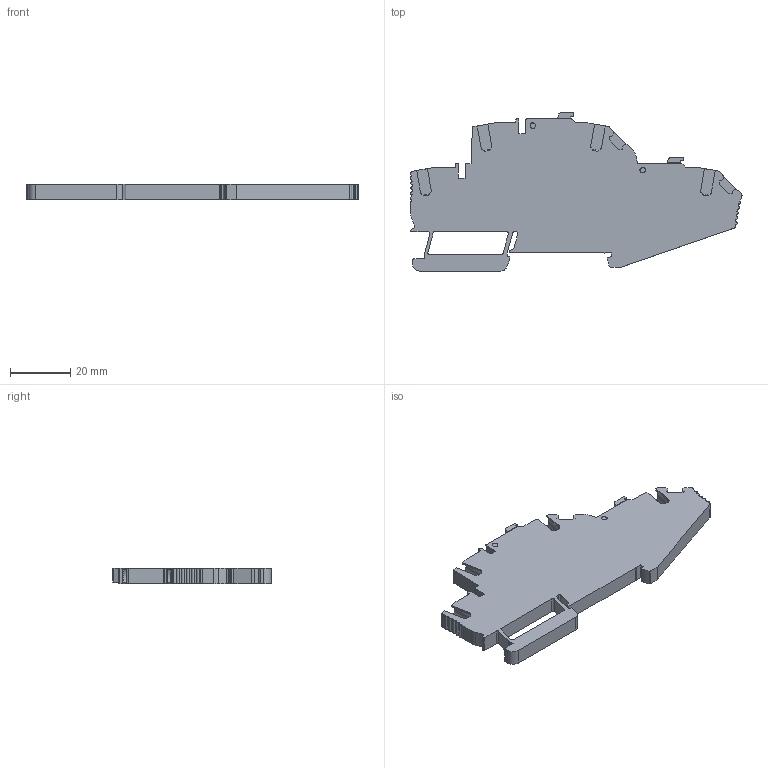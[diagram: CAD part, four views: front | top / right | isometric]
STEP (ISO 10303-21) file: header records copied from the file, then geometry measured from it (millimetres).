
FILE_DESCRIPTION(('Creo Elements/Direct Modeling STEP Export'),'2;1');
FILE_NAME('EFDS.2.stp','2019-01-09T13:25:53',(''),(''),'Creo Elements/Direct Modeling STEP processor for AP214 (Solid Model)','Creo Elements/Direct Modeling 20.1 10-Mar-2018 (C) Parametric Technology GmbH','');
FILE_SCHEMA(('AUTOMOTIVE_DESIGN { 1 0 10303 214 1 1 1 1 }'));
Length unit declared in the file: millimetre
Products named in the file (3): EFDS_2-140210.PRT; EFDS_2-141660.ASM; EFDS_2.stp
Assembly tree (2 placements, depth 3):
  EFDS_2.stp
    EFDS_2-141660.ASM
      EFDS_2-140210.PRT
Bounding box: 110.27 x 52.5 x 5.2 mm (x, y, z)
Volume: 17777.1 mm3; surface area: 11909.3 mm2
Topology: 1 solids, 1 shells, 405 faces, 1159 edges, 768 vertices
Faces by surface type: plane 270, cylinder 135
Entity records: 14102 total; most frequent: CARTESIAN_POINT 2325, ORIENTED_EDGE 2318, DIRECTION 2207, EDGE_CURVE 1159, VECTOR 885, LINE 885, VERTEX_POINT 768, AXIS2_PLACEMENT_3D 661
